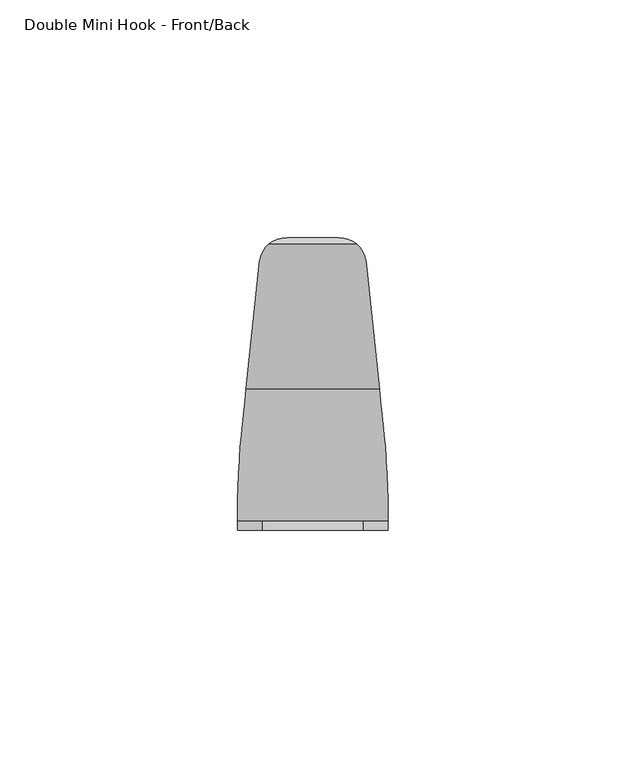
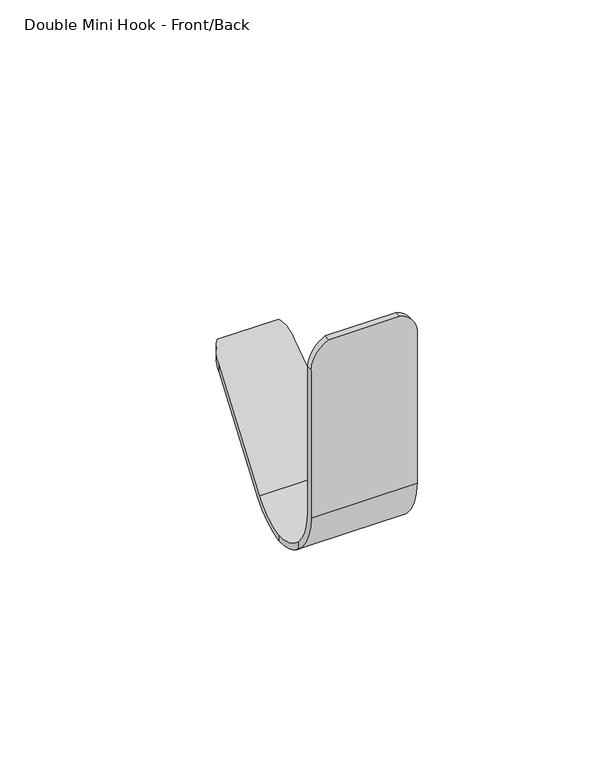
"""IFC4 building model written with IfcOpenShell, lengths in millimetres: furniture geometry, Steelcase Turnstone - Bivi - Accessories - Mini Hook : Double Mini Hook - Front/Back."""

from ifc_helpers import new_model, si_unit, frame, origin, place, context, project, spatial, polyline, circle_curve, ellipse_curve, source, transform, mapped, element, save
from ifc_brep_helpers import plane_surface, cylinder_surface, revolved_surface, advanced_brep


def double_mini_hook_front_back_d21041cb(model_context):
    return source(origin(), model_context, "Body", "AdvancedBrep", [
        advanced_brep(
        [(620.1620153, -53.4664322, 985.0156196), (620.1620153, -53.4664322, 1031.8857507), (620.1620153, -53.4664322, 1033.6357817), (620.1620153, -55.3714803, 1033.6357817), (620.1620153, -55.3714803, 1031.8857507), (620.1620153, -55.3714803, 985.0156196), (620.1620153, -48.8683701, 971.1769593), (620.1620153, -48.8683701, 973.6348117), (588.4120084, -55.3714803, 985.0156196), (588.4120084, -55.3714803, 1031.8857305), (588.4120084, -53.4664322, 1031.8857305), (588.4120084, -53.4664322, 985.0156196), (588.4120084, -48.8684191, 973.6348625), (588.4120084, -48.8684191, 971.1770008), (589.0070625, -37.5141092, 966.8432061), (590.4000571, -24.2606518, 971.9889373), (618.1739692, -24.2606518, 971.9889373), (619.5669637, -37.5141092, 966.8432061), (592.989597, 0.377175, 995.7814101), (598.8540827, 6.2416607, 1001.444678), (609.7199436, 6.2416607, 1001.444678), (615.5844292, 0.377175, 995.7814101), (595.1226772, 4.9014214, 1002.7849173), (613.451349, 4.9014214, 1002.7849173), (592.989597, 0.377175, 998.4159034), (590.2616932, -25.577096, 973.3521552), (618.312333, -25.577096, 973.3521552), (615.5844292, 0.377175, 998.4159034), (619.5669637, -37.5141092, 968.6377665), (589.0070625, -37.5141092, 968.6377665), (593.7335702, -53.4664322, 1039.7467841), (614.8280207, -53.4664322, 1039.7526221), (593.7460154, -55.3714803, 1039.7526221), (614.8280207, -55.3714803, 1039.7526221)],
        [
            (0, 1),
            (1, 2),
            (2, 3),
            (3, 4),
            (4, 5),
            (5, 6, circle_curve(frame((620.1620153, -37.0136686, 985.1950728), z_axis=(1.0, 0.0, 0.0), x_axis=(0.0, 1.0, 0.0)), 18.3586888)),
            (6, 7),
            (7, 0, circle_curve(frame((620.1620153, -37.0829035, 985.0156196), z_axis=(-1.0, 0.0, 0.0), x_axis=(0.0, 1.0, 0.0)), 16.3835286)),
            (8, 9),
            (9, 10),
            (10, 11),
            (11, 12, circle_curve(frame((588.4120084, -37.0829035, 985.0156196), z_axis=(1.0, 0.0, 0.0), x_axis=(0.0, 1.0, 0.0)), 16.3835286)),
            (12, 13),
            (13, 8, circle_curve(frame((588.4120084, -37.0136686, 985.1950728), z_axis=(-1.0, 0.0, 0.0), x_axis=(0.0, 1.0, 0.0)), 18.3586888)),
            (5, 8),
            (13, 14, ellipse_curve(frame((589.0332895, -37.0136686, 985.1950728), z_axis=(0.9986295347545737, -0.05233595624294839, 0.0), x_axis=(0.05233595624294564, 0.9986295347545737, 0.0)), 18.3838833, 18.3586888)),
            (14, 15, ellipse_curve(frame((589.059661, -37.0136686, 985.1950728), z_axis=(0.994521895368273, -0.10452846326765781, 0.0), x_axis=(0.10452846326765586, 0.9945218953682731, 0.0)), 18.4598136, 18.3586888)),
            (15, 16),
            (16, 17, ellipse_curve(frame((619.5143652, -37.0136686, 985.1950728), z_axis=(-0.9945218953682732, -0.10452846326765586, 0.0), x_axis=(0.10452846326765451, -0.9945218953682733, 0.0)), 18.4598136, 18.3586888)),
            (17, 6, ellipse_curve(frame((619.5407367, -37.0136686, 985.1950728), z_axis=(-0.9986295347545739, -0.052335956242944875, 0.0), x_axis=(0.05233595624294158, -0.9986295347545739, 0.0)), 18.3838833, 18.3586888)),
            (15, 18),
            (18, 19, ellipse_curve(frame((598.8540827, 0.377175, 995.7814101), z_axis=(0.0, 0.6946583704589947, -0.7193398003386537), x_axis=(0.0, -0.7193398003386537, -0.6946583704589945)), 8.1525944, 5.8644857)),
            (19, 20),
            (20, 21, ellipse_curve(frame((609.7199436, 0.377175, 995.7814101), z_axis=(0.0, 0.6946583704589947, -0.7193398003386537), x_axis=(0.0, -0.7193398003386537, -0.6946583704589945)), 8.1525944, 5.8644857)),
            (21, 16),
            (19, 22, ellipse_curve(frame((598.8540827, 0.377175, 1007.3091637), z_axis=(0.0, 0.7071067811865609, 0.7071067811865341), x_axis=(0.0, 0.7071067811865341, -0.7071067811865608)), 8.2936352, 5.8644857)),
            (22, 23),
            (23, 20, ellipse_curve(frame((609.7199436, 0.377175, 1007.3091637), z_axis=(0.0, 0.7071067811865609, 0.7071067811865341), x_axis=(0.0, 0.7071067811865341, -0.7071067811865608)), 8.2936352, 5.8644857)),
            (22, 24, ellipse_curve(frame((598.8540827, 0.377175, 998.4159034), z_axis=(0.0, -0.6946583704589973, 0.7193398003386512), x_axis=(0.0, -0.7193398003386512, -0.6946583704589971)), 8.1525944, 5.8644857)),
            (24, 25),
            (25, 26),
            (26, 27),
            (27, 23, ellipse_curve(frame((609.7199436, 0.377175, 998.4159034), z_axis=(0.0, -0.6946583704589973, 0.7193398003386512), x_axis=(0.0, -0.7193398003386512, -0.6946583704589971)), 8.1525944, 5.8644857)),
            (11, 0),
            (7, 28, ellipse_curve(frame((619.5443651, -37.0829035, 985.0156196), z_axis=(0.9986295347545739, 0.052335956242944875, 0.0), x_axis=(-0.05233595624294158, 0.9986295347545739, 0.0)), 16.4060125, 16.3835286)),
            (28, 26, ellipse_curve(frame((619.5216421, -37.0829035, 985.0156196), z_axis=(0.9945218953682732, 0.10452846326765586, 0.0), x_axis=(-0.10452846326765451, 0.9945218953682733, 0.0)), 16.4737737, 16.3835286)),
            (25, 29, ellipse_curve(frame((589.0523841, -37.0829035, 985.0156196), z_axis=(-0.994521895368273, 0.10452846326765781, 0.0), x_axis=(-0.10452846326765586, -0.9945218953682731, 0.0)), 16.4737737, 16.3835286)),
            (29, 12, ellipse_curve(frame((589.0296611, -37.0829035, 985.0156196), z_axis=(-0.9986295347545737, 0.05233595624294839, 0.0), x_axis=(-0.05233595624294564, -0.9986295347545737, 0.0)), 16.4060125, 16.3835286)),
            (10, 30, circle_curve(frame((597.6845345, -53.4664322, 1031.3404182), z_axis=(0.0, 1.0, 0.0), x_axis=(1.0, 0.0, 0.0)), 9.288547)),
            (30, 31),
            (31, 2, circle_curve(frame((612.98429, -53.4664322, 1032.7607662), z_axis=(0.0, 1.0, 0.0), x_axis=(1.0, 0.0, 0.0)), 7.2308638)),
            (30, 32),
            (32, 33),
            (33, 31),
            (3, 33, circle_curve(frame((612.98429, -55.3714803, 1032.7607662), z_axis=(0.0, -1.0, 0.0), x_axis=(1.0, 0.0, 0.0)), 7.2308638)),
            (32, 9, circle_curve(frame((597.6845345, -55.3714803, 1031.3404182), z_axis=(0.0, -1.0, 0.0), x_axis=(1.0, 0.0, 0.0)), 9.288547)),
            (14, 29),
            (24, 18),
            (17, 28),
            (27, 21),
        ],
        [
            plane_surface(frame((620.1620153, -18.6549798, 985.1950728), z_axis=(1.0, 0.0, 0.0), x_axis=(0.0, 0.0, 1.0))),
            plane_surface(frame((588.4120084, -18.6549798, 985.1950728), z_axis=(-1.0, 0.0, 0.0), x_axis=(0.0, 0.0, -1.0))),
            cylinder_surface(frame((588.4120084, -37.0136686, 985.1950728), z_axis=(1.0, 0.0, 0.0), x_axis=(0.0, 1.0, 0.0)), 18.3586888),
            plane_surface(frame((620.1620153, -24.2606518, 971.9889373), z_axis=(0.0, 0.6946583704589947, -0.7193398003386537), x_axis=(-1.0, 0.0, 0.0))),
            plane_surface(frame((620.1620153, 6.2416607, 1001.444678), z_axis=(0.0, 0.7071067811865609, 0.7071067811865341), x_axis=(-1.0, 0.0, 0.0))),
            plane_surface(frame((620.1620153, 4.9014214, 1002.7849173), z_axis=(0.0, -0.6946583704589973, 0.7193398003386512), x_axis=(-1.0, 0.0, 0.0))),
            revolved_surface(polyline([(587.3304058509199, -20.6993749, 985.0156196), (621.2436203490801, -20.6993749, 985.0156196)]), (588.4120084, -37.0829035, 985.0156196), (-1.0, 0.0, 0.0)),
            plane_surface(frame((620.1620153, -53.4664322, 985.0156196), z_axis=(0.0, 1.0, 0.0), x_axis=(-1.0, 0.0, 0.0))),
            plane_surface(frame((620.1620153, -53.4664322, 1039.7526221), z_axis=(0.0, 0.0, 1.0), x_axis=(-1.0, 0.0, 0.0))),
            plane_surface(frame((620.1620153, -55.3714803, 1039.7526221), z_axis=(0.0, -1.0, 0.0), x_axis=(-1.0, 0.0, 0.0))),
            cylinder_surface(frame((597.6845345, -87.8970957, 1031.3404182), z_axis=(0.0, -1.0, 0.0), x_axis=(1.0, 0.0, 0.0)), 9.288547),
            cylinder_surface(frame((612.98429, -33.2226803, 1032.7607662), z_axis=(0.0, -1.0, 0.0), x_axis=(1.0, 0.0, 0.0)), 7.2308638),
            plane_surface(frame((589.0070625, -37.5141092, 1017.6150198), z_axis=(-0.994521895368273, 0.10452846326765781, 0.0), x_axis=(0.0, 0.0, -1.0))),
            cylinder_surface(frame((598.8540827, 0.377175, 316.2188303), z_axis=(0.0, 0.0, -1.0), x_axis=(0.0, 1.0, 0.0)), 5.8644857),
            plane_surface(frame((588.4120084, -48.8684191, 1017.6150198), z_axis=(-0.9986295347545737, 0.05233595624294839, 0.0), x_axis=(0.0, 0.0, -1.0))),
            plane_surface(frame((619.5669637, -37.5141092, 1017.6150198), z_axis=(0.9986295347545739, 0.052335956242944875, 0.0), x_axis=(0.0, 0.0, -1.0))),
            cylinder_surface(frame((609.7199436, 0.377175, 316.2188303), z_axis=(0.0, 0.0, -1.0), x_axis=(0.0, 1.0, 0.0)), 5.8644857),
            plane_surface(frame((615.5844292, 0.377175, 1017.6150198), z_axis=(0.9945218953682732, 0.10452846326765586, 0.0), x_axis=(0.0, 0.0, -1.0))),
        ],
        [
            (0, [[1, 2, 3, 4, 5, 6, 7, 8]]),
            (1, [[9, 10, 11, 12, 13, 14]]),
            (2, [[15, -14, 16, 17, 18, 19, 20, -6]]),
            (3, [[-18, 21, 22, 23, 24, 25]]),
            (4, [[-23, 26, 27, 28]]),
            (5, [[-27, 29, 30, 31, 32, 33]]),
            (6, [[34, -8, 35, 36, -31, 37, 38, -12]]),
            (7, [[-34, -11, 39, 40, 41, -2, -1]]),
            (8, [[-40, 42, 43, 44]]),
            (9, [[-15, -5, -4, 45, -43, 46, -9]]),
            (10, [[-10, -46, -42, -39]]),
            (11, [[-3, -41, -44, -45]]),
            (12, [[47, -37, -30, 48, -21, -17]]),
            (13, [[-48, -29, -26, -22]]),
            (14, [[-47, -16, -13, -38]]),
            (15, [[49, -35, -7, -20]]),
            (16, [[50, -24, -28, -33]]),
            (17, [[-49, -19, -25, -50, -32, -36]]),
        ],
    ),
    ])


if __name__ == "__main__":
    model = new_model("IFC4")
    model_context = context("Model", 3, world=origin())
    ifc_project = project(units=[si_unit("LENGTHUNIT", "METRE", prefix="MILLI")], contexts=[model_context])
    site = spatial("IfcSite", under=ifc_project)
    building = spatial("IfcBuilding", under=site)
    placement = place(None, origin())
    double_mini_hook_front_back_shape = double_mini_hook_front_back_d21041cb(model_context)
    element("IfcFurniture", 1, ObjectType="Steelcase Turnstone - Bivi - Accessories - Mini Hook : Double Mini Hook - Front/Back", at=placement, inside=building, context=model_context, shape_type="MappedRepresentation", body=[
        mapped(double_mini_hook_front_back_shape, transform((0.0, 0.0, 0.0), x_axis=(1.0, 0.0, 0.0), y_axis=(0.0, 1.0, 0.0), z_axis=(0.0, 0.0, 1.0))),
    ])
    save(model, "model.ifc")
